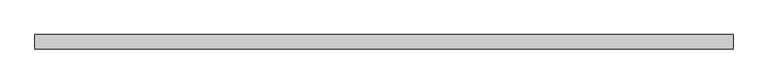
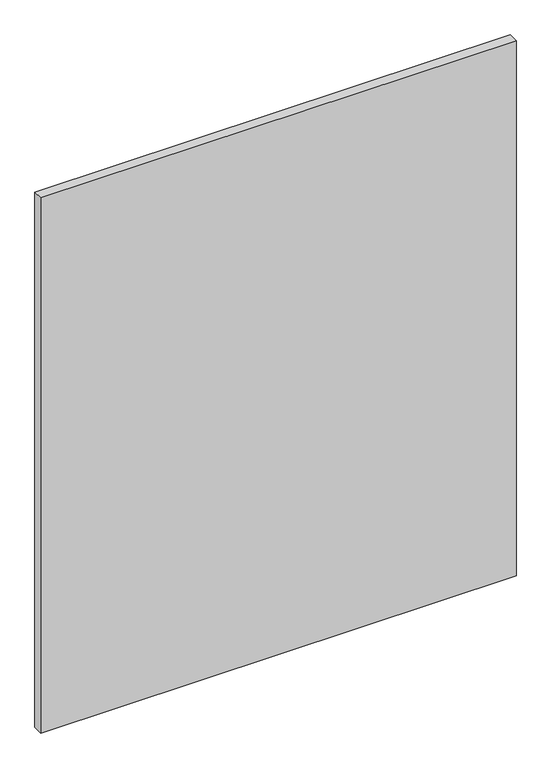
"""IFC4 building model written with IfcOpenShell, lengths in millimetres: plate geometry, Системная панель : С остеклением."""

from ifc_helpers import new_model, si_unit, origin, origin_with_axes, place, context, project, spatial, polyline, outline, extrude, source, transform, mapped, element, save


def plate_d07ea12a(model_context):
    return source(origin(), model_context, "Body", "SweptSolid", [
        extrude(outline(polyline([(609.375, 24.5), (-609.375, 24.5), (-609.375, 49.5), (609.375, 49.5), (609.375, 24.5)])), origin_with_axes(), (0.0, 0.0, 1.0), 1450.0),
    ])


if __name__ == "__main__":
    model = new_model("IFC4")
    model_context = context("Model", 3, world=origin())
    ifc_project = project(units=[si_unit("LENGTHUNIT", "METRE", prefix="MILLI")], contexts=[model_context])
    site = spatial("IfcSite", under=ifc_project)
    building = spatial("IfcBuilding", under=site)
    placement = place(None, origin())
    plate_shape = plate_d07ea12a(model_context)
    element("IfcPlate", 1, ObjectType="Системная панель : С остеклением", at=placement, inside=building, context=model_context, shape_type="MappedRepresentation", body=[
        mapped(plate_shape, transform((0.0, 0.0, 0.0), x_axis=(1.0, 0.0, 0.0), y_axis=(0.0, 1.0, 0.0), z_axis=(0.0, 0.0, 1.0))),
    ])
    save(model, "model.ifc")
